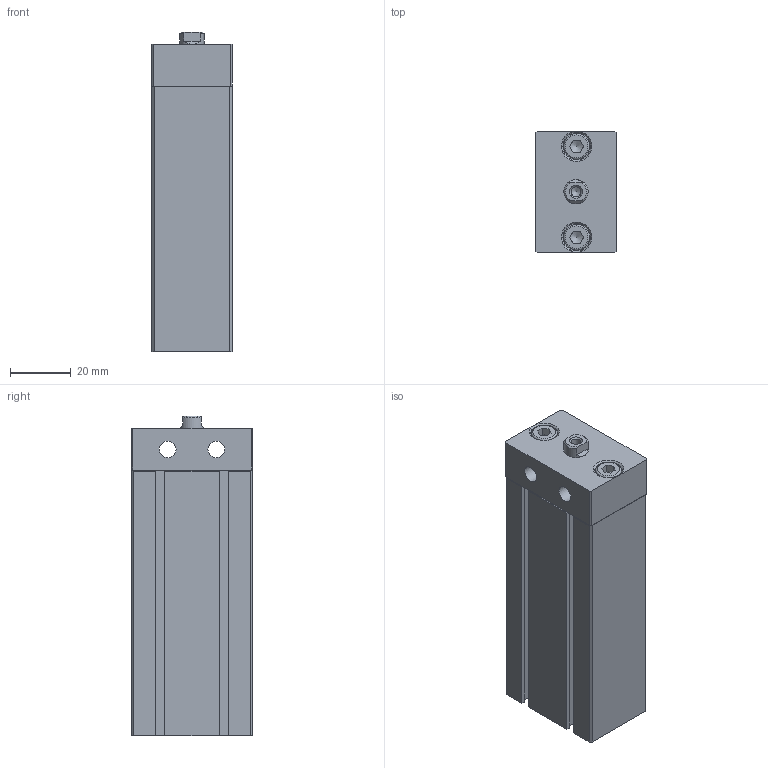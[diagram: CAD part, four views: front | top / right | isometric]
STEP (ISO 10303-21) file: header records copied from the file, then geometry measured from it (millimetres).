
FILE_DESCRIPTION((''),'2;1');
FILE_NAME('I:\3D電子目錄\氣缸\ND\ND\ND20\ND20x60.stp','2007-07-23T20:11:28',('Administrator'),(''),'Autodesk Inventor 11','Autodesk Inventor 11','');
FILE_SCHEMA(('AUTOMOTIVE_DESIGN { 1 0 10303 214 1 1 1 1 }'));
Length unit declared in the file: millimetre
Products named in the file (4): ND20; R 形環 22; ISO 4762 M5 x 10
Assembly tree (4 placements, depth 2):
  ND20
    ND20
    R 形環 22
    ISO 4762 M5 x 10  x2
Bounding box: 26.4 x 40.1 x 105.5 mm (x, y, z)
Volume: 96383.2 mm3; surface area: 24058.3 mm2
Topology: 5 solids, 5 shells, 160 faces, 400 edges, 257 vertices
Faces by surface type: plane 101, cylinder 26, bspline 16, cone 14, torus 3
Full cylindrical faces by diameter (mm): 1.5 x4, 5 x2, 5.5 x2, 8.5 x2, 9 x2, 13 x1, 21 x1
Entity records: 4401 total; most frequent: CARTESIAN_POINT 948, DIRECTION 676, ORIENTED_EDGE 654, EDGE_CURVE 327, VECTOR 234, LINE 234, VERTEX_POINT 231, AXIS2_PLACEMENT_3D 221
